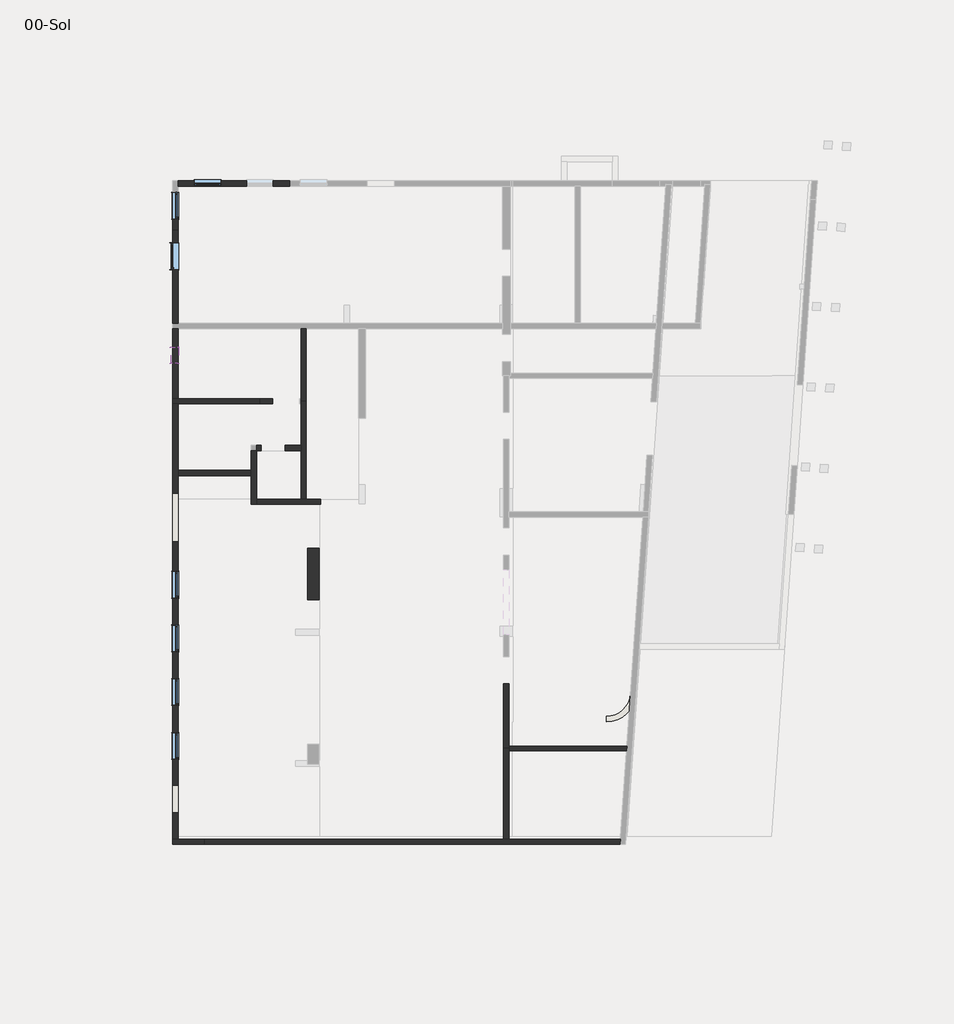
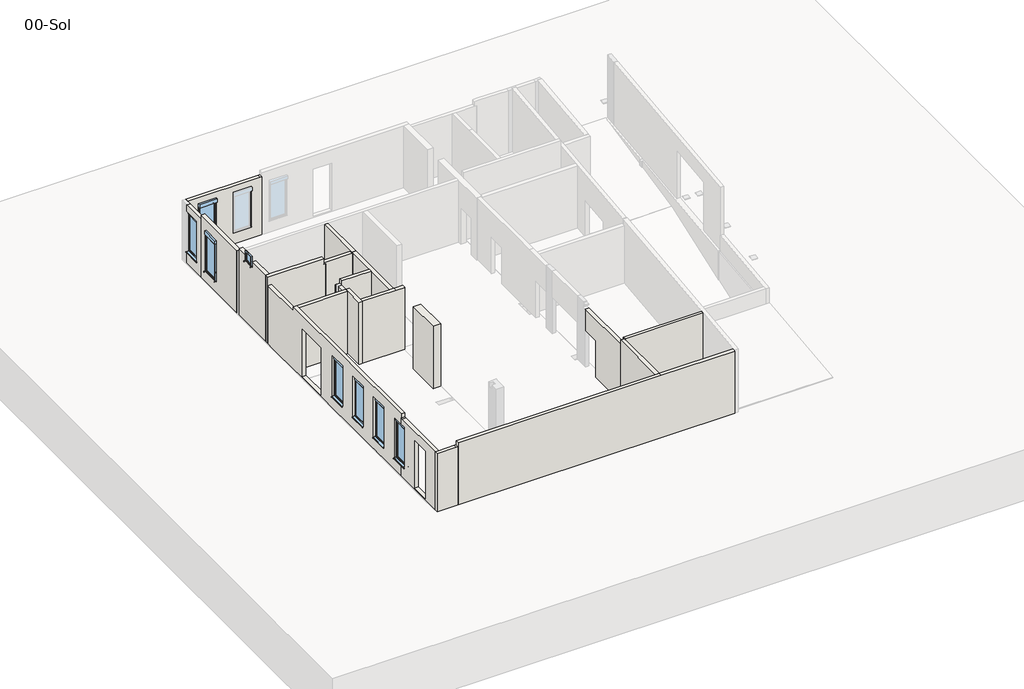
# One storey, part 1 of 4: 36 walls, 8 windows.
"""IFC4 building model written with IfcOpenShell, lengths in millimetres."""

from ifc_helpers import new_model, si_unit, frame, origin, place, context, project, spatial, polyline, circle_curve, outline, extrude, faceted_brep, transform, mapped, element, save
from ifc_brep_helpers import plane_surface, cylinder_surface, revolved_surface, advanced_brep
from components import window_220x100_2f9f3537, window_220x100_ace72829, window_220x100_16273c3d, tunnel_1v_voile_60x60_87597c4a

model = new_model("IFC4")

# Units and contexts
model_context = context("Model", 3, world=origin())
ifc_project = project(units=[si_unit("LENGTHUNIT", "METRE", prefix="MILLI")], contexts=[model_context])

# Site, building, storey
site = spatial("IfcSite", under=ifc_project)
building = spatial("IfcBuilding", under=site)
storey = spatial("IfcBuildingStorey", under=building, Name="00-Sol", Elevation=0.0)

# Walls
placement = place(None, origin())
element("IfcWall", 1, ObjectType="Voile Banché 20 cm", at=placement, inside=storey, context=model_context, shape_type="Brep", body=[
    faceted_brep([(-4937.0447796, -5540.1377724, 80.0), (-5907.0447796, -5540.1377724, 80.0), (-6107.0447796, -5540.1377724, 80.0), (-6107.0447796, -5540.1377724, 3510.0), (-5907.0447796, -5540.1377724, 3510.0), (-5037.0447796, -5540.1377724, 3510.0), (-4937.0447796, -5540.1377724, 3510.0), (-4937.0447796, -5740.1377724, 80.0), (-4937.0447796, -5740.1377724, 3510.0), (-5037.0447796, -5740.1377724, 3510.0), (-6107.0447796, -5740.1377724, 3510.0), (-6107.0447796, -5740.1377724, 80.0)], [[[0, 1, 2, 3, 4, 5, 6]], [[7, 8, 9, 10, 11]], [[2, 1, 0, 7, 11]], [[0, 6, 8, 7]], [[3, 2, 11, 10]], [[6, 5, 9, 8]], [[5, 4, 3, 10, 9]]]),
])
element("IfcWall", 2, ObjectType="Voile Banché 20 cm", at=placement, inside=storey, context=model_context, shape_type="SweptSolid", body=[
    extrude(outline(polyline([(18559.8622276, 80.0), (17149.8622276, 80.0), (17149.8622276, 3510.0), (18559.8622276, 3510.0), (18559.8622276, 3150.0), (17559.8622276, 3150.0), (17559.8622276, 750.0), (18559.8622276, 750.0), (18559.8622276, 80.0)])), frame((-6107.0447796, 0.0, 0.0), z_axis=(1.0, 0.0, 0.0), x_axis=(0.0, 1.0, 0.0)), (0.0, 0.0, 1.0), 200.0),
])
element("IfcWall", 3, ObjectType="Voile Banché 20 cm", at=placement, inside=storey, context=model_context, shape_type="Brep", body=[
    faceted_brep([(-6107.0447796, -2240.1377724, 3760.0), (-6107.0447796, 8209.8622276, 3760.0), (-6107.0447796, 8209.8622276, 3690.0), (-6107.0447796, 8209.8622276, 3510.0), (-6107.0447796, 10679.8622276, 3510.0), (-6107.0447796, 10679.8622276, 80.0), (-6107.0447796, 7339.8622276, 80.0), (-6107.0447796, 5539.8622276, 80.0), (-6107.0447796, -2240.1377724, 80.0), (-6107.0447796, -2240.1377724, 750.0), (-6107.0447796, -1571.2553382, 750.0), (-6107.0447796, -1571.2553382, 3150.0), (-6107.0447796, -2240.1377724, 3150.0), (-6107.0447796, -2240.1377724, 3510.0), (-6107.0447796, 5534.8622276, 2950.0), (-6107.0447796, 5534.8622276, 150.0), (-6107.0447796, 7339.8622276, 150.0), (-6107.0447796, 7339.8622276, 2950.0), (-6107.0447796, 3439.8622276, 3150.0), (-6107.0447796, 3439.8622276, 750.0), (-6107.0447796, 4439.8622276, 750.0), (-6107.0447796, 4439.8622276, 3150.0), (-6107.0447796, 1439.8622276, 3150.0), (-6107.0447796, 1439.8622276, 750.0), (-6107.0447796, 2439.8622276, 750.0), (-6107.0447796, 2439.8622276, 3150.0), (-6107.0447796, -560.1377724, 3150.0), (-6107.0447796, -560.1377724, 750.0), (-6107.0447796, 439.8622276, 750.0), (-6107.0447796, 439.8622276, 3150.0), (-5907.0447796, 8209.8622276, 3760.0), (-5907.0447796, 8009.8622276, 3760.0), (-5907.0447796, -2240.1377724, 3760.0), (-5907.0447796, -2240.1377724, 3510.0), (-5907.0447796, -2240.1377724, 3150.0), (-5907.0447796, -1571.2553382, 3150.0), (-5907.0447796, -1571.2553382, 750.0), (-5907.0447796, -2240.1377724, 750.0), (-5907.0447796, -2240.1377724, 80.0), (-5907.0447796, 5539.8622276, 80.0), (-5907.0447796, 7339.8622276, 80.0), (-5907.0447796, 8009.8622276, 80.0), (-5907.0447796, 8209.8622276, 80.0), (-5907.0447796, 10679.8622276, 80.0), (-5907.0447796, 10679.8622276, 3510.0), (-5907.0447796, 8209.8622276, 3510.0), (-5907.0447796, 8209.8622276, 3690.0), (-5907.0447796, 5534.8622276, 150.0), (-5907.0447796, 5534.8622276, 2950.0), (-5907.0447796, 7339.8622276, 2950.0), (-5907.0447796, 7339.8622276, 150.0), (-5907.0447796, 3439.8622276, 750.0), (-5907.0447796, 3439.8622276, 3150.0), (-5907.0447796, 4439.8622276, 3150.0), (-5907.0447796, 4439.8622276, 750.0), (-5907.0447796, 1439.8622276, 750.0), (-5907.0447796, 1439.8622276, 3150.0), (-5907.0447796, 2439.8622276, 3150.0), (-5907.0447796, 2439.8622276, 750.0), (-5907.0447796, -560.1377724, 750.0), (-5907.0447796, -560.1377724, 3150.0), (-5907.0447796, 439.8622276, 3150.0), (-5907.0447796, 439.8622276, 750.0)], [[[0, 1, 2, 3, 4, 5, 6, 7, 8, 9, 10, 11, 12, 13], [14, 15, 16, 17], [18, 19, 20, 21], [22, 23, 24, 25], [26, 27, 28, 29]], [[30, 31, 32, 33, 34, 35, 36, 37, 38, 39, 40, 41, 42, 43, 44, 45, 46], [47, 48, 49, 50], [51, 52, 53, 54], [55, 56, 57, 58], [59, 60, 61, 62]], [[1, 0, 32, 31, 30]], [[4, 3, 45, 44]], [[5, 4, 44, 43]], [[0, 13, 12, 34, 33, 32]], [[9, 8, 38, 37]], [[6, 5, 43, 42, 41, 40]], [[7, 6, 40, 39]], [[8, 7, 39, 38]], [[47, 15, 14, 48]], [[48, 14, 17, 49]], [[49, 17, 16, 50]], [[15, 47, 50, 16]], [[11, 35, 34, 12]], [[35, 11, 10, 36]], [[36, 10, 9, 37]], [[51, 19, 18, 52]], [[52, 18, 21, 53]], [[53, 21, 20, 54]], [[19, 51, 54, 20]], [[55, 23, 22, 56]], [[56, 22, 25, 57]], [[57, 25, 24, 58]], [[23, 55, 58, 24]], [[59, 27, 26, 60]], [[60, 26, 29, 61]], [[61, 29, 28, 62]], [[27, 59, 62, 28]], [[30, 46, 45, 3, 2, 1]]]),
])
element("IfcWall", 4, ObjectType="Voile Banché 43 cm", at=placement, inside=storey, context=model_context, shape_type="Brep", body=[
    faceted_brep([(-1072.0447796, 5305.2622276, 80.0), (-1072.0447796, 3375.2622276, 80.0), (-1072.0447796, 3375.2622276, 3060.0), (-1072.0447796, 3375.2622276, 3760.0), (-1072.0447796, 5305.2622276, 3760.0), (-1072.0447796, 5305.2622276, 3360.0), (-642.0447796, 5305.2622276, 80.0), (-642.0447796, 5305.2622276, 3360.0), (-642.0447796, 5305.2622276, 3760.0), (-642.0447796, 3375.2622276, 3760.0), (-642.0447796, 3375.2622276, 3060.0), (-642.0447796, 3375.2622276, 80.0)], [[[0, 1, 2, 3, 4, 5]], [[6, 7, 8, 9, 10, 11]], [[1, 0, 6, 11]], [[3, 2, 1, 11, 10, 9]], [[0, 5, 4, 8, 7, 6]], [[4, 3, 9, 8]]]),
])
element("IfcWall", 5, ObjectType="Voile Banché 20 cm", at=placement, inside=storey, context=model_context, shape_type="Brep", body=[
    faceted_brep([(10580.423686, -5540.1377724, 80.0), (6432.9552204, -5540.1377724, 80.0), (6232.9552204, -5540.1377724, 80.0), (-4937.0447796, -5540.1377724, 80.0), (-4937.0447796, -5540.1377724, 3510.0), (-4937.0447796, -5540.1377724, 3760.0), (-4837.0447796, -5540.1377724, 3760.0), (6232.9552204, -5540.1377724, 3760.0), (6432.9552204, -5540.1377724, 3760.0), (10580.423686, -5540.1377724, 3760.0), (10580.423686, -5540.1377724, 280.0), (10566.4383237, -5740.1377724, 80.0), (10566.4383237, -5740.1377724, 3760.0), (6432.9552204, -5740.1377724, 3760.0), (-4937.0447796, -5740.1377724, 3760.0), (-4937.0447796, -5740.1377724, 3510.0), (-4937.0447796, -5740.1377724, 80.0)], [[[0, 1, 2, 3, 4, 5, 6, 7, 8, 9, 10]], [[11, 12, 13, 14, 15, 16]], [[3, 2, 1, 0, 11, 16]], [[5, 4, 3, 16, 15, 14]], [[9, 8, 13, 12]], [[8, 7, 6, 5, 14, 13]], [[0, 10, 9, 12, 11]]]),
])
element("IfcWall", 6, ObjectType="Voile Banché 20 cm", at=placement, inside=storey, context=model_context, shape_type="Brep", body=[
    faceted_brep([(-1377.0447796, 10679.8622276, 3760.0), (-2777.0447796, 10679.8622276, 3760.0), (-2977.0447796, 10679.8622276, 3760.0), (-2977.0447796, 10679.8622276, 3690.0), (-2877.0447796, 10679.8622276, 3690.0), (-2877.0447796, 10679.8622276, 80.0), (-2377.0447796, 10679.8622276, 80.0), (-2377.0447796, 10679.8622276, 2250.0), (-1377.0447796, 10679.8622276, 2250.0), (-2977.0447796, 10879.8622276, 3760.0), (-1377.0447796, 10879.8622276, 3760.0), (-1377.0447796, 10879.8622276, 2250.0), (-2377.0447796, 10879.8622276, 2250.0), (-2377.0447796, 10879.8622276, 80.0), (-2877.0447796, 10879.8622276, 80.0), (-2877.0447796, 10879.8622276, 3690.0), (-2977.0447796, 10879.8622276, 3690.0)], [[[0, 1, 2, 3, 4, 5, 6, 7, 8]], [[9, 10, 11, 12, 13, 14, 15, 16]], [[5, 14, 13, 6]], [[10, 0, 8, 11]], [[7, 12, 11, 8]], [[12, 7, 6, 13]], [[5, 4, 15, 14]], [[3, 16, 15, 4]], [[3, 2, 9, 16]], [[2, 1, 0, 10, 9]]]),
])
element("IfcWall", 7, ObjectType="Voile Banché 20 cm", at=placement, inside=storey, context=model_context, shape_type="Brep", body=[
    faceted_brep([(-3177.0447796, 8929.8622276, 80.0), (-3177.0447796, 8209.8622276, 80.0), (-3177.0447796, 8009.8622276, 80.0), (-3177.0447796, 6929.8622276, 80.0), (-3177.0447796, 6929.8622276, 3760.0), (-3177.0447796, 8009.8622276, 3760.0), (-3177.0447796, 8209.8622276, 3760.0), (-3177.0447796, 8209.8622276, 3510.0), (-3177.0447796, 8929.8622276, 3510.0), (-2977.0447796, 8929.8622276, 80.0), (-2977.0447796, 8929.8622276, 3510.0), (-2977.0447796, 8209.8622276, 3510.0), (-2977.0447796, 8209.8622276, 3760.0), (-2977.0447796, 7129.8622276, 3760.0), (-2977.0447796, 6929.8622276, 3760.0), (-2977.0447796, 6929.8622276, 80.0), (-2977.0447796, 7129.8622276, 80.0)], [[[0, 1, 2, 3, 4, 5, 6, 7, 8]], [[9, 10, 11, 12, 13, 14, 15, 16]], [[3, 2, 1, 0, 9, 16, 15]], [[0, 8, 10, 9]], [[4, 3, 15, 14]], [[6, 5, 4, 14, 13, 12]], [[8, 7, 11, 10]], [[6, 12, 11, 7]]]),
])
element("IfcWall", 8, ObjectType="Voile Banché 20 cm", at=placement, inside=storey, context=model_context, shape_type="Brep", body=[
    faceted_brep([(-1327.0447796, 8929.8622276, 80.0), (-1327.0447796, 8929.8622276, 3760.0), (-2977.0447796, 8929.8622276, 3760.0), (-2977.0447796, 8929.8622276, 3510.0), (-2977.0447796, 8929.8622276, 80.0), (-2817.0447796, 8929.8622276, 80.0), (-2817.0447796, 8929.8622276, 2250.0), (-1917.0447796, 8929.8622276, 2250.0), (-1917.0447796, 8929.8622276, 80.0), (-1327.0447796, 9129.8622276, 3760.0), (-1327.0447796, 9129.8622276, 80.0), (-1917.0447796, 9129.8622276, 80.0), (-1917.0447796, 9129.8622276, 2250.0), (-2817.0447796, 9129.8622276, 2250.0), (-2817.0447796, 9129.8622276, 80.0), (-2977.0447796, 9129.8622276, 80.0), (-2977.0447796, 9129.8622276, 3510.0), (-2977.0447796, 9129.8622276, 3690.0), (-2977.0447796, 9129.8622276, 3760.0), (-2777.0447796, 9129.8622276, 3760.0)], [[[0, 1, 2, 3, 4, 5, 6, 7, 8]], [[9, 10, 11, 12, 13, 14, 15, 16, 17, 18, 19]], [[10, 0, 8, 11]], [[4, 15, 14, 5]], [[1, 0, 10, 9]], [[6, 13, 12, 7]], [[13, 6, 5, 14]], [[7, 12, 11, 8]], [[4, 3, 2, 18, 17, 16, 15]], [[2, 1, 9, 19, 18]]]),
])
element("IfcWall", 9, ObjectType="Voile Banché 20 cm", at=placement, inside=storey, context=model_context, shape_type="Brep", body=[
    faceted_brep([(-2977.0447796, 6929.8622276, 80.0), (-597.0447796, 6929.8622276, 80.0), (-597.0447796, 6929.8622276, 3260.0), (-597.0447796, 6929.8622276, 3760.0), (-642.0447796, 6929.8622276, 3760.0), (-1072.0447796, 6929.8622276, 3760.0), (-2977.0447796, 6929.8622276, 3760.0), (-2977.0447796, 7129.8622276, 80.0), (-2977.0447796, 7129.8622276, 3760.0), (-1327.0447796, 7129.8622276, 3760.0), (-1127.0447796, 7129.8622276, 3760.0), (-1072.0447796, 7129.8622276, 3760.0), (-597.0447796, 7129.8622276, 3760.0), (-597.0447796, 7129.8622276, 3260.0), (-597.0447796, 7129.8622276, 80.0)], [[[0, 1, 2, 3, 4, 5, 6]], [[7, 8, 9, 10, 11, 12, 13, 14]], [[1, 0, 7, 14]], [[3, 2, 1, 14, 13, 12]], [[0, 6, 8, 7]], [[5, 4, 3, 12, 11]], [[6, 5, 11, 10, 9, 8]]]),
])
element("IfcWall", 10, ObjectType="Voile Banché 20 cm", at=placement, inside=storey, context=model_context, shape_type="SweptSolid", body=[
    extrude(outline(polyline([(-2240.1377724, 80.0), (-5540.1377724, 80.0), (-5540.1377724, 3510.0), (-2340.1377724, 3510.0), (-2240.1377724, 3510.0), (-2240.1377724, 3150.0), (-2571.2553382, 3150.0), (-2571.2553382, 750.0), (-2240.1377724, 750.0), (-2240.1377724, 80.0)]), holes=[polyline([(-4566.2553382, 2950.0), (-4566.2553382, 150.0), (-3541.2553382, 150.0), (-3541.2553382, 2950.0), (-4566.2553382, 2950.0)])]), frame((-6107.0447796, 0.0, 0.0), z_axis=(1.0, 0.0, 0.0), x_axis=(0.0, 1.0, 0.0)), (0.0, 0.0, 1.0), 200.0),
])
element("IfcWall", 11, ObjectType="Voile Banché 20 cm", at=placement, inside=storey, context=model_context, shape_type="Brep", body=[
    faceted_brep([(-6107.0447796, 10679.8622276, 4010.0), (-6107.0447796, 10679.8622276, 3510.0), (-6107.0447796, 10679.8622276, 80.0), (-5907.0447796, 10679.8622276, 80.0), (-2877.0447796, 10679.8622276, 80.0), (-2877.0447796, 10679.8622276, 3690.0), (-2977.0447796, 10679.8622276, 3690.0), (-2977.0447796, 10679.8622276, 3760.0), (-2977.0447796, 10679.8622276, 4010.0), (-6107.0447796, 10879.8622276, 80.0), (-6107.0447796, 10879.8622276, 4010.0), (-5907.0447796, 10879.8622276, 4010.0), (-2977.0447796, 10879.8622276, 4010.0), (-2977.0447796, 10879.8622276, 3760.0), (-2977.0447796, 10879.8622276, 3690.0), (-2877.0447796, 10879.8622276, 3690.0), (-2877.0447796, 10879.8622276, 80.0), (-5907.0447796, 10879.8622276, 80.0)], [[[0, 1, 2, 3, 4, 5, 6, 7, 8]], [[9, 10, 11, 12, 13, 14, 15, 16, 17]], [[4, 3, 2, 9, 17, 16]], [[0, 8, 12, 11, 10]], [[5, 4, 16, 15]], [[14, 6, 5, 15]], [[8, 7, 6, 14, 13, 12]], [[0, 10, 9, 2, 1]]]),
])
element("IfcWall", 12, ObjectType="Voile Banché 20 cm", at=placement, inside=storey, context=model_context, shape_type="Brep", body=[
    faceted_brep([(-6107.0447796, 13479.8622276, 80.0), (-6107.0447796, 10879.8622276, 80.0), (-6107.0447796, 10879.8622276, 4010.0), (-6107.0447796, 12194.4911239, 4010.0), (-6107.0447796, 12194.4911239, 3735.0), (-6107.0447796, 12794.4911239, 3735.0), (-6107.0447796, 12794.4911239, 4010.0), (-6107.0447796, 13479.8622276, 4010.0), (-6107.0447796, 13479.8622276, 3760.0), (-5907.0447796, 10879.8622276, 80.0), (-5907.0447796, 13479.8622276, 80.0), (-5907.0447796, 13479.8622276, 4010.0), (-5907.0447796, 12794.4911239, 4010.0), (-5907.0447796, 12794.4911239, 3735.0), (-5907.0447796, 12194.4911239, 3735.0), (-5907.0447796, 12194.4911239, 4010.0), (-5907.0447796, 10879.8622276, 4010.0)], [[[0, 1, 2, 3, 4, 5, 6, 7, 8]], [[9, 10, 11, 12, 13, 14, 15, 16]], [[1, 0, 10, 9]], [[11, 7, 6, 12]], [[2, 16, 15, 3]], [[0, 8, 7, 11, 10]], [[5, 13, 12, 6]], [[14, 4, 3, 15]], [[13, 5, 4, 14]], [[1, 9, 16, 2]]]),
])
element("IfcWall", 13, ObjectType="Voile Banché 28", at=placement, inside=storey, context=model_context, shape_type="Brep", body=[
    faceted_brep([(-6107.0447796, 18999.8622276, -3690.0), (-6107.0447796, -5440.1377724, -3690.0), (-6107.0447796, -5440.1377724, -150.0), (-6107.0447796, -2240.1377724, -150.0), (-6107.0447796, 7129.8622276, -150.0), (-6107.0447796, 13479.8622276, -150.0), (-6107.0447796, 13479.8622276, -190.0), (-6107.0447796, 18999.8622276, -190.0), (-5827.0447796, 18999.8622276, -3690.0), (-5827.0447796, 18999.8622276, -190.0), (-5827.0447796, 13679.8622276, -190.0), (-5827.0447796, 13479.8622276, -190.0), (-5827.0447796, 13479.8622276, -150.0), (-5827.0447796, 10879.8622276, -150.0), (-5827.0447796, 10679.8622276, -150.0), (-5827.0447796, 7129.8622276, -150.0), (-5827.0447796, 6929.8622276, -150.0), (-5827.0447796, -5160.1377724, -150.0), (-5827.0447796, -5440.1377724, -150.0), (-5827.0447796, -5440.1377724, -3690.0), (-5827.0447796, -5160.1377724, -3690.0), (-5827.0447796, 6929.8622276, -3690.0), (-5827.0447796, 7129.8622276, -3690.0), (-5827.0447796, 10679.8622276, -3690.0), (-5827.0447796, 10879.8622276, -3690.0), (-5827.0447796, 13479.8622276, -3690.0), (-5827.0447796, 13679.8622276, -3690.0), (-5827.0447796, 18719.8622276, -3690.0)], [[[0, 1, 2, 3, 4, 5, 6, 7]], [[8, 9, 10, 11, 12, 13, 14, 15, 16, 17, 18, 19, 20, 21, 22, 23, 24, 25, 26, 27]], [[1, 0, 8, 27, 26, 25, 24, 23, 22, 21, 20, 19]], [[2, 1, 19, 18]], [[0, 7, 9, 8]], [[4, 3, 2, 18, 17, 16, 15]], [[7, 6, 11, 10, 9]], [[5, 4, 15, 14, 13, 12]], [[5, 12, 11, 6]]]),
])
element("IfcWall", 14, ObjectType="Voile Banché 28", at=placement, inside=storey, context=model_context, shape_type="Brep", body=[
    faceted_brep([(-5827.0447796, -5440.1377724, -3690.0), (16210.7902416, -5440.1377724, -3690.0), (16210.7902416, -5440.1377724, -220.0), (10787.9047469, -5440.1377724, -220.0), (10787.9047469, -5440.1377724, -150.0), (6533.9216137, -5440.1377724, -150.0), (6532.9552204, -5440.1377724, -150.0), (6532.9552204, -5440.1377724, -190.0), (-637.0447796, -5440.1377724, -190.0), (-637.0447796, -5440.1377724, -150.0), (-5827.0447796, -5440.1377724, -150.0), (-5827.0447796, -5160.1377724, -3690.0), (-5827.0447796, -5160.1377724, -3520.0), (-5827.0447796, -5160.1377724, -3390.0), (-5827.0447796, -5160.1377724, -150.0), (-1537.0447796, -5160.1377724, -150.0), (-637.0447796, -5160.1377724, -150.0), (-637.0447796, -5160.1377724, -190.0), (6532.9552204, -5160.1377724, -190.0), (6532.9552204, -5160.1377724, -150.0), (6533.9216137, -5160.1377724, -150.0), (10807.4842542, -5160.1377724, -150.0), (10807.4842542, -5160.1377724, -220.0), (15979.7592744, -5160.1377724, -220.0), (16230.369749, -5160.1377724, -220.0), (16230.369749, -5160.1377724, -3690.0), (15979.7592744, -5160.1377724, -3690.0)], [[[0, 1, 2, 3, 4, 5, 6, 7, 8, 9, 10]], [[11, 12, 13, 14, 15, 16, 17, 18, 19, 20, 21, 22, 23, 24, 25, 26]], [[1, 0, 11, 26, 25]], [[2, 1, 25, 24]], [[0, 10, 14, 13, 12, 11]], [[10, 9, 16, 15, 14]], [[8, 7, 18, 17]], [[3, 2, 24, 23, 22]], [[6, 5, 20, 19]], [[5, 4, 21, 20]], [[16, 9, 8, 17]], [[6, 19, 18, 7]], [[21, 4, 3, 22]]]),
])
element("IfcWall", 15, ObjectType="Voile Banché 25", at=placement, inside=storey, context=model_context, shape_type="Brep", body=[
    faceted_brep([(16453.2940501, 1611.7250146, -3690.0), (15979.7592744, -5160.1377724, -3690.0), (15979.7592744, -5160.1377724, -220.0), (16446.8703782, 1519.8622276, -220.0), (16453.2940501, 1611.7250146, -220.0), (16453.2940501, 1611.7250146, -500.0), (16702.6850626, 1594.2858962, -3690.0), (16702.6850626, 1594.2858962, -220.0), (16230.369749, -5160.1377724, -220.0), (16230.369749, -5160.1377724, -3690.0), (16503.1722526, 1608.237191, -3690.0), (16503.1722526, 1608.237191, -220.0)], [[[0, 1, 2, 3, 4, 5]], [[6, 7, 8, 9]], [[1, 0, 10, 6, 9]], [[0, 5, 4, 11, 7, 6, 10]], [[2, 1, 9, 8]], [[4, 3, 2, 8, 7, 11]]]),
])
element("IfcWall", 16, ObjectType="Voile Banché 20 cm", at=placement, inside=storey, context=model_context, shape_type="Brep", body=[
    faceted_brep([(-5827.0447796, 13479.8622276, -3690.0), (-1127.0447796, 13479.8622276, -3690.0), (-1127.0447796, 13479.8622276, -190.0), (-5827.0447796, 13479.8622276, -190.0), (-5827.0447796, 13679.8622276, -3690.0), (-5827.0447796, 13679.8622276, -190.0), (-1327.0447796, 13679.8622276, -190.0), (-1127.0447796, 13679.8622276, -190.0), (-1127.0447796, 13679.8622276, -370.0), (-1127.0447796, 13679.8622276, -3690.0), (-1127.0447796, 13529.8622276, -190.0)], [[[0, 1, 2, 3]], [[4, 5, 6, 7, 8, 9]], [[1, 0, 4, 9]], [[2, 1, 9, 8, 7, 10]], [[0, 3, 5, 4]], [[3, 2, 10, 7, 6, 5]]]),
])
element("IfcWall", 17, ObjectType="Voile Banché 20 cm", at=placement, inside=storey, context=model_context, shape_type="Brep", body=[
    faceted_brep([(-5827.0447796, 10679.8622276, -3690.0), (812.9552204, 10679.8622276, -3690.0), (1082.9552204, 10679.8622276, -3690.0), (1082.9552204, 10679.8622276, -190.0), (812.9552204, 10679.8622276, -190.0), (812.9552204, 10679.8622276, -150.0), (-5827.0447796, 10679.8622276, -150.0), (-5827.0447796, 10879.8622276, -3690.0), (-5827.0447796, 10879.8622276, -150.0), (812.9552204, 10879.8622276, -150.0), (812.9552204, 10879.8622276, -190.0), (1082.9552204, 10879.8622276, -190.0), (1082.9552204, 10879.8622276, -3690.0)], [[[0, 1, 2, 3, 4, 5, 6]], [[7, 8, 9, 10, 11, 12]], [[2, 1, 0, 7, 12]], [[0, 6, 8, 7]], [[3, 2, 12, 11]], [[4, 3, 11, 10]], [[6, 5, 9, 8]], [[9, 5, 4, 10]]]),
])
element("IfcWall", 18, ObjectType="Voile Banché 20 cm", at=placement, inside=storey, context=model_context, shape_type="Brep", body=[
    faceted_brep([(-1227.0447796, 6929.8622276, -3690.0), (-1127.0447796, 6929.8622276, -3690.0), (812.9552204, 6929.8622276, -3690.0), (812.9552204, 6929.8622276, -3520.0), (812.9552204, 6929.8622276, -3390.0), (812.9552204, 6929.8622276, -190.0), (-637.0447796, 6929.8622276, -190.0), (-637.0447796, 6929.8622276, -150.0), (-1227.0447796, 6929.8622276, -150.0), (-1227.0447796, 6929.8622276, -3520.0), (-1227.0447796, 7129.8622276, -3690.0), (-1227.0447796, 7129.8622276, -3520.0), (-1227.0447796, 7129.8622276, -150.0), (-637.0447796, 7129.8622276, -150.0), (-637.0447796, 7129.8622276, -190.0), (812.9552204, 7129.8622276, -190.0), (812.9552204, 7129.8622276, -3690.0)], [[[0, 1, 2, 3, 4, 5, 6, 7, 8, 9]], [[10, 11, 12, 13, 14, 15, 16]], [[2, 1, 0, 10, 16]], [[5, 4, 3, 2, 16, 15]], [[0, 9, 8, 12, 11, 10]], [[8, 7, 13, 12]], [[6, 5, 15, 14]], [[13, 7, 6, 14]]]),
])
element("IfcWall", 19, ObjectType="Voile Banché 20 cm", at=placement, inside=storey, context=model_context, shape_type="Brep", body=[
    faceted_brep([(-2977.0447796, 6929.8622276, -4890.0), (-2977.0447796, 7129.8622276, -4890.0), (-2977.0447796, 8929.8622276, -4890.0), (-2977.0447796, 9129.8622276, -4890.0), (-2977.0447796, 9129.8622276, -3990.0), (-2977.0447796, 8929.8622276, -3990.0), (-2977.0447796, 8929.8622276, -150.0), (-2977.0447796, 7129.8622276, -150.0), (-2977.0447796, 6929.8622276, -150.0), (-2977.0447796, 6929.8622276, -3520.0), (-3177.0447796, 6929.8622276, -4890.0), (-3177.0447796, 6929.8622276, -3690.0), (-3177.0447796, 6929.8622276, -150.0), (-3177.0447796, 7129.8622276, -150.0), (-3177.0447796, 8929.8622276, -150.0), (-3177.0447796, 8929.8622276, -3990.0), (-3177.0447796, 9129.8622276, -3990.0), (-3177.0447796, 9129.8622276, -4890.0)], [[[0, 1, 2, 3, 4, 5, 6, 7, 8, 9]], [[10, 11, 12, 13, 14, 15, 16, 17]], [[3, 2, 1, 0, 10, 17]], [[15, 5, 4, 16]], [[4, 3, 17, 16]], [[6, 5, 15, 14]], [[8, 7, 13, 12]], [[7, 6, 14, 13]], [[0, 9, 8, 12, 11, 10]]]),
])
element("IfcWall", 20, ObjectType="Voile Banché 20 cm", at=placement, inside=storey, context=model_context, shape_type="Brep", body=[
    faceted_brep([(-3907.0447796, 8929.8622276, -3990.0), (-3177.0447796, 8929.8622276, -3990.0), (-2977.0447796, 8929.8622276, -3990.0), (-1327.0447796, 8929.8622276, -3990.0), (-1127.0447796, 8929.8622276, -3990.0), (-1127.0447796, 8929.8622276, -3690.0), (-1327.0447796, 8929.8622276, -3690.0), (-3907.0447796, 8929.8622276, -3690.0), (-3907.0447796, 9129.8622276, -3990.0), (-3907.0447796, 9129.8622276, -3690.0), (-1697.0447796, 9129.8622276, -3690.0), (-1497.0447796, 9129.8622276, -3690.0), (-1127.0447796, 9129.8622276, -3690.0), (-1127.0447796, 9129.8622276, -3990.0), (-1327.0447796, 9129.8622276, -3990.0), (-1497.0447796, 9129.8622276, -3990.0), (-1697.0447796, 9129.8622276, -3990.0), (-2977.0447796, 9129.8622276, -3990.0)], [[[0, 1, 2, 3, 4, 5, 6, 7]], [[8, 9, 10, 11, 12, 13, 14, 15, 16, 17]], [[4, 3, 2, 1, 0, 8, 17, 16, 15, 14, 13]], [[7, 6, 5, 12, 11, 10, 9]], [[5, 4, 13, 12]], [[0, 7, 9, 8]]]),
])
element("IfcWall", 21, ObjectType="Voile Banché 20 cm", at=placement, inside=storey, context=model_context, shape_type="Brep", body=[
    faceted_brep([(-1327.0447796, 9129.8622276, -4890.0), (-1327.0447796, 8929.8622276, -4890.0), (-1327.0447796, 7129.8622276, -4890.0), (-1327.0447796, 6929.8622276, -4890.0), (-1327.0447796, 6929.8622276, -3690.0), (-1327.0447796, 7129.8622276, -3690.0), (-1327.0447796, 8929.8622276, -3690.0), (-1327.0447796, 8929.8622276, -3990.0), (-1327.0447796, 9129.8622276, -3990.0), (-1127.0447796, 9129.8622276, -4890.0), (-1127.0447796, 9129.8622276, -3990.0), (-1127.0447796, 8929.8622276, -3990.0), (-1127.0447796, 8929.8622276, -3690.0), (-1127.0447796, 6929.8622276, -3690.0), (-1127.0447796, 6929.8622276, -4890.0), (-1227.0447796, 6929.8622276, -3690.0)], [[[0, 1, 2, 3, 4, 5, 6, 7, 8]], [[9, 10, 11, 12, 13, 14]], [[3, 2, 1, 0, 9, 14]], [[6, 5, 4, 15, 13, 12]], [[7, 11, 10, 8]], [[0, 8, 10, 9]], [[7, 6, 12, 11]], [[4, 3, 14, 13, 15]]]),
])
element("IfcWall", 22, ObjectType="Voile Banché 20 cm", at=placement, inside=storey, context=model_context, shape_type="Brep", body=[
    faceted_brep([(-4107.0447796, 10779.8622276, -3990.0), (-4107.0447796, 8929.8622276, -3990.0), (-4107.0447796, 8929.8622276, -3690.0), (-4107.0447796, 10779.8622276, -3690.0), (-3907.0447796, 10779.8622276, -3990.0), (-3907.0447796, 10779.8622276, -3690.0), (-3907.0447796, 9129.8622276, -3690.0), (-3907.0447796, 8929.8622276, -3690.0), (-3907.0447796, 8929.8622276, -3990.0), (-3907.0447796, 9129.8622276, -3990.0)], [[[0, 1, 2, 3]], [[4, 5, 6, 7, 8, 9]], [[1, 0, 4, 9, 8]], [[3, 2, 7, 6, 5]], [[0, 3, 5, 4]], [[2, 1, 8, 7]]]),
])
element("IfcWall", 23, ObjectType="Voile Banché 20 cm", at=placement, inside=storey, context=model_context, shape_type="SweptSolid", body=[
    extrude(outline(polyline([(-1697.0447796, 9129.8622276), (-1697.0447796, 10779.8622276), (-1497.0447796, 10779.8622276), (-1497.0447796, 9129.8622276), (-1697.0447796, 9129.8622276)])), frame((0.0, 0.0, -3990.0), z_axis=(0.0, 0.0, 1.0), x_axis=(1.0, 0.0, 0.0)), (0.0, 0.0, 1.0), 300.0),
])
element("IfcWall", 24, ObjectType="Voile Banché 20 cm", at=placement, inside=storey, context=model_context, shape_type="Brep", body=[
    faceted_brep([(5232.9552204, -1160.1377724, -3690.0), (10072.9552204, -1160.1377724, -3690.0), (10072.9552204, -1160.1377724, -3540.0), (10072.9552204, -1160.1377724, -3390.0), (10072.9552204, -1160.1377724, -190.0), (6582.9552204, -1160.1377724, -190.0), (6532.9552204, -1160.1377724, -190.0), (5232.9552204, -1160.1377724, -190.0), (5232.9552204, -1160.1377724, -3390.0), (5232.9552204, -1160.1377724, -3540.0), (10072.9552204, -960.1377724, -3690.0), (5232.9552204, -960.1377724, -3690.0), (5232.9552204, -960.1377724, -190.0), (6082.9552204, -960.1377724, -190.0), (6582.9552204, -960.1377724, -190.0), (10072.9552204, -960.1377724, -190.0)], [[[0, 1, 2, 3, 4, 5, 6, 7, 8, 9]], [[10, 11, 12, 13, 14, 15]], [[1, 0, 11, 10]], [[10, 15, 4, 3, 2, 1]], [[12, 11, 0, 9, 8, 7]], [[4, 15, 14, 5]], [[12, 7, 6, 5, 14, 13]]]),
])
element("IfcWall", 25, ObjectType="Voile Banché 20 cm", at=placement, inside=storey, context=model_context, shape_type="AdvancedBrep", body=[
    advanced_brep(
    [(10961.0375218, -131.6850201, 150.0), (10072.9552204, -960.1377724, 150.0), (10072.9552204, -1160.1377724, 150.0), (11160.5554032, -145.5636013, 150.0), (10961.0375218, -131.6850201, -3690.0), (11160.5554032, -145.5636013, -3690.0), (10072.9552204, -1160.1377724, -3690.0), (10072.9552204, -960.1377724, -3690.0), (10961.0375218, -131.6850201, -150.0), (10072.9552204, -960.1377724, -190.0), (10072.9552204, -1160.1377724, -190.0), (11160.5554032, -145.5636013, -150.0)],
    [
        (0, 1, circle_curve(frame((10072.9552204, -69.9094928, 150.0), z_axis=(0.0, 0.0, -1.0), x_axis=(1.0, 0.0, 0.0)), 890.2282796)),
        (1, 2),
        (2, 3, circle_curve(frame((10072.9552204, -69.9094928, 150.0), z_axis=(0.0, 0.0, 1.0), x_axis=(1.0, 0.0, 0.0)), 1090.2282796)),
        (3, 0),
        (4, 5),
        (5, 6, circle_curve(frame((10072.9552204, -69.9094928, -3690.0), z_axis=(0.0, 0.0, -1.0), x_axis=(1.0, 0.0, 0.0)), 1090.2282796)),
        (6, 7),
        (7, 4, circle_curve(frame((10072.9552204, -69.9094928, -3690.0), z_axis=(0.0, 0.0, 1.0), x_axis=(1.0, 0.0, 0.0)), 890.2282796)),
        (0, 8),
        (8, 4),
        (7, 9),
        (9, 1),
        (6, 10),
        (10, 2),
        (5, 11),
        (11, 3),
    ],
    [
        plane_surface(frame((10963.1835, -69.9094928, 150.0), z_axis=(0.0, 0.0, 1.0), x_axis=(0.0, -1.0, 0.0))),
        plane_surface(frame((10963.1835, -69.9094928, -3690.0), z_axis=(0.0, 0.0, -1.0), x_axis=(0.0, 1.0, 0.0))),
        revolved_surface(polyline([(10963.1835, -69.9094928, -3690.0), (10963.1835, -69.9094928, 150.0)]), (10072.9552204, -69.9094928, -3690.0), (0.0, 0.0, -1.0)),
        plane_surface(frame((10072.9552204, -960.1377724, 150.0), z_axis=(-1.0, 0.0, 0.0), x_axis=(0.0, 0.0, -1.0))),
        cylinder_surface(frame((10072.9552204, -69.9094928, -3690.0), z_axis=(0.0, 0.0, 1.0), x_axis=(1.0, 0.0, 0.0)), 1090.2282796),
        plane_surface(frame((11160.5554032, -145.5636013, 150.0), z_axis=(0.06939290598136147, 0.9975894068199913, 0.0), x_axis=(0.0, 0.0, -1.0))),
    ],
    [
        (0, [[1, 2, 3, 4]]),
        (1, [[5, 6, 7, 8]]),
        (2, [[-1, 9, 10, -8, 11, 12]]),
        (3, [[-2, -12, -11, -7, 13, 14]]),
        (4, [[-3, -14, -13, -6, 15, 16]]),
        (5, [[-4, -16, -15, -5, -10, -9]]),
    ],
),
])
element("IfcWall", 26, ObjectType="Voile Banché 20 cm", at=placement, inside=storey, context=model_context, shape_type="SweptSolid", body=[
    extrude(outline(polyline([(-1327.0447796, 8929.8622276), (-2977.0447796, 8929.8622276), (-2977.0447796, 9129.8622276), (-1327.0447796, 9129.8622276), (-1327.0447796, 8929.8622276)])), frame((0.0, 0.0, -4890.0), z_axis=(0.0, 0.0, 1.0), x_axis=(1.0, 0.0, 0.0)), (0.0, 0.0, 1.0), 900.0),
])
element("IfcWall", 27, ObjectType="Voile Banché 20 cm", at=placement, inside=storey, context=model_context, shape_type="SweptSolid", body=[
    extrude(outline(polyline([(-4890.0, -1327.0447796), (-3690.0, -1327.0447796), (-3690.0, -1227.0447796), (-3520.0, -1227.0447796), (-3520.0, -2977.0447796), (-4890.0, -2977.0447796), (-4890.0, -1327.0447796)])), frame((0.0, 6929.8622276, 0.0), z_axis=(0.0, 1.0, 0.0), x_axis=(0.0, 0.0, 1.0)), (0.0, 0.0, 1.0), 200.0),
])
element("IfcWall", 28, ObjectType="Voile Banché 20 cm", at=placement, inside=storey, context=model_context, shape_type="SweptSolid", body=[
    extrude(outline(polyline([(-3177.0447796, 6929.8622276), (-5827.0447796, 6929.8622276), (-5827.0447796, 7129.8622276), (-3177.0447796, 7129.8622276), (-3177.0447796, 6929.8622276)])), frame((0.0, 0.0, -3690.0), z_axis=(0.0, 0.0, 1.0), x_axis=(1.0, 0.0, 0.0)), (0.0, 0.0, 1.0), 3540.0),
])
element("IfcWall", 29, ObjectType="Poutre voile 16 cm", at=placement, inside=storey, context=model_context, shape_type="Brep", body=[
    faceted_brep([(6432.9552204, -2240.1377724, 80.0), (10811.1821655, -2240.1377724, 80.0), (10811.1821655, -2240.1377724, 3810.0), (6432.9552204, -2240.1377724, 3810.0), (6432.9552204, -2080.1377724, 80.0), (6432.9552204, -2080.1377724, 3810.0), (10822.3704554, -2080.1377724, 3810.0), (10822.3704554, -2080.1377724, 80.0), (6432.9552204, -2160.1377724, 80.0)], [[[0, 1, 2, 3]], [[4, 5, 6, 7]], [[1, 0, 8, 4, 7]], [[3, 2, 6, 5]], [[2, 1, 7, 6]], [[0, 3, 5, 4, 8]]]),
])
element("IfcWall", 30, ObjectType="Poutre voile 20cm", at=placement, inside=storey, context=model_context, shape_type="Brep", body=[
    faceted_brep([(6432.9552204, -5540.1377724, 80.0), (6432.9552204, -5440.1377724, 80.0), (6432.9552204, -2240.1377724, 80.0), (6432.9552204, -2160.1377724, 80.0), (6432.9552204, -2160.1377724, 3760.0), (6432.9552204, -5540.1377724, 3760.0), (6432.9552204, -5540.1377724, 280.0), (6232.9552204, -5540.1377724, 80.0), (6232.9552204, -5540.1377724, 280.0), (6232.9552204, -5540.1377724, 3760.0), (6232.9552204, -2160.1377724, 3760.0), (6232.9552204, -2160.1377724, 80.0), (6232.9552204, -5440.1377724, 80.0)], [[[0, 1, 2, 3, 4, 5, 6]], [[7, 8, 9, 10, 11, 12]], [[3, 2, 1, 0, 7, 12, 11]], [[4, 3, 11, 10]], [[5, 4, 10, 9]], [[0, 6, 5, 9, 8, 7]]]),
])
element("IfcWall", 31, ObjectType="Poutre voile 20cm", at=placement, inside=storey, context=model_context, shape_type="Brep", body=[
    faceted_brep([(6432.9552204, 1259.8622276, 3510.0), (6432.9552204, -2150.1377724, 3510.0), (6432.9552204, -2150.1377724, 3760.0), (6432.9552204, -2160.1377724, 3760.0), (6432.9552204, -2160.1377724, 80.0), (6432.9552204, -2080.1377724, 80.0), (6432.9552204, 239.8622276, 80.0), (6432.9552204, 239.8622276, 2250.0), (6432.9552204, 1259.8622276, 2250.0), (6232.9552204, -2160.1377724, 3760.0), (6232.9552204, -2150.1377724, 3760.0), (6232.9552204, -2150.1377724, 3510.0), (6232.9552204, 1119.8622276, 3510.0), (6232.9552204, 1259.8622276, 3510.0), (6232.9552204, 1259.8622276, 2250.0), (6232.9552204, 239.8622276, 2250.0), (6232.9552204, 239.8622276, 80.0), (6232.9552204, -2160.1377724, 80.0)], [[[0, 1, 2, 3, 4, 5, 6, 7, 8]], [[9, 10, 11, 12, 13, 14, 15, 16, 17]], [[4, 17, 16, 6, 5]], [[13, 0, 8, 14]], [[4, 3, 9, 17]], [[7, 15, 14, 8]], [[15, 7, 6, 16]], [[3, 2, 10, 9]], [[1, 0, 13, 12, 11]], [[10, 2, 1, 11]]]),
])
element("IfcWall", 32, ObjectType="Poutre voile 20cm", at=placement, inside=storey, context=model_context, shape_type="Brep", body=[
    faceted_brep([(-1127.0447796, 10779.8622276, -150.0), (-1127.0447796, 13479.8622276, -150.0), (-1127.0447796, 13479.8622276, 3760.0), (-1127.0447796, 10779.8622276, 3760.0), (-1327.0447796, 10779.8622276, -150.0), (-1327.0447796, 10779.8622276, 3760.0), (-1327.0447796, 10879.8622276, 3760.0), (-1327.0447796, 13479.8622276, 3760.0), (-1327.0447796, 13479.8622276, -150.0)], [[[0, 1, 2, 3]], [[4, 5, 6, 7, 8]], [[1, 0, 4, 8]], [[0, 3, 5, 4]], [[2, 1, 8, 7]], [[3, 2, 7, 6, 5]]]),
])
element("IfcWall", 33, ObjectType="Poutre voile 20cm", at=placement, inside=storey, context=model_context, shape_type="Brep", body=[
    faceted_brep([(-1127.0447796, 7129.8622276, -150.0), (-1127.0447796, 10779.8622276, -150.0), (-1127.0447796, 10779.8622276, 3760.0), (-1127.0447796, 7129.8622276, 3760.0), (-1327.0447796, 7129.8622276, -150.0), (-1327.0447796, 7129.8622276, 3760.0), (-1327.0447796, 8929.8622276, 3760.0), (-1327.0447796, 9129.8622276, 3760.0), (-1327.0447796, 10679.8622276, 3760.0), (-1327.0447796, 10779.8622276, 3760.0), (-1327.0447796, 10779.8622276, -150.0)], [[[0, 1, 2, 3]], [[4, 5, 6, 7, 8, 9, 10]], [[1, 0, 4, 10]], [[2, 1, 10, 9]], [[0, 3, 5, 4]], [[3, 2, 9, 8, 7, 6, 5]]]),
])
element("IfcWall", 34, ObjectType="Poutre voile 20cm", at=placement, inside=storey, context=model_context, shape_type="Brep", body=[
    faceted_brep([(-3177.0447796, 8209.8622276, 80.0), (-5907.0447796, 8209.8622276, 80.0), (-5907.0447796, 8209.8622276, 3510.0), (-5907.0447796, 8209.8622276, 3760.0), (-3177.0447796, 8209.8622276, 3760.0), (-3177.0447796, 8209.8622276, 3510.0), (-3177.0447796, 8009.8622276, 80.0), (-3177.0447796, 8009.8622276, 3760.0), (-5907.0447796, 8009.8622276, 3760.0), (-5907.0447796, 8009.8622276, 80.0)], [[[0, 1, 2, 3, 4, 5]], [[6, 7, 8, 9]], [[1, 0, 6, 9]], [[3, 2, 1, 9, 8]], [[0, 5, 4, 7, 6]], [[4, 3, 8, 7]]]),
])
element("IfcWall", 35, ObjectType="Voile", at=placement, inside=storey, context=model_context, shape_type="SweptSolid", body=[
    extrude(outline(polyline([(80.0, -5907.0447796), (80.0, -1757.0447796), (3510.0, -1757.0447796), (3510.0, -1857.0447796), (3510.0, -5907.0447796), (80.0, -5907.0447796)]), holes=[polyline([(3150.0, -2357.0447796), (750.0, -2357.0447796), (750.0, -3357.0447796), (3150.0, -3357.0447796), (3150.0, -2357.0447796)]), polyline([(3150.0, -4307.0447796), (750.0, -4307.0447796), (750.0, -5307.0447796), (3150.0, -5307.0447796), (3150.0, -4307.0447796)])]), frame((0.0, 18799.8622276, 0.0), z_axis=(0.0, 1.0, 0.0), x_axis=(0.0, 0.0, 1.0)), (0.0, 0.0, 1.0), 200.0),
])
element("IfcWall", 36, ObjectType="Voile", at=placement, inside=storey, context=model_context, shape_type="Brep", body=[
    faceted_brep([(-6107.0447796, 17149.8622276, 80.0), (-6107.0447796, 13679.8622276, 80.0), (-6107.0447796, 13679.8622276, 3760.0), (-6107.0447796, 17149.8622276, 3760.0), (-6107.0447796, 17149.8622276, 3510.0), (-6107.0447796, 15679.8622276, 3150.0), (-6107.0447796, 15679.8622276, 750.0), (-6107.0447796, 16679.8622276, 750.0), (-6107.0447796, 16679.8622276, 3150.0), (-5907.0447796, 13679.8622276, 80.0), (-5907.0447796, 17149.8622276, 80.0), (-5907.0447796, 17149.8622276, 3510.0), (-5907.0447796, 17149.8622276, 3760.0), (-5907.0447796, 13679.8622276, 3760.0), (-5907.0447796, 15679.8622276, 750.0), (-5907.0447796, 15679.8622276, 3150.0), (-5907.0447796, 16679.8622276, 3150.0), (-5907.0447796, 16679.8622276, 750.0)], [[[0, 1, 2, 3, 4], [5, 6, 7, 8]], [[9, 10, 11, 12, 13], [14, 15, 16, 17]], [[1, 0, 10, 9]], [[0, 4, 3, 12, 11, 10]], [[2, 1, 9, 13]], [[3, 2, 13, 12]], [[14, 6, 5, 15]], [[15, 5, 8, 16]], [[16, 8, 7, 17]], [[6, 14, 17, 7]]]),
])

# Windows
window_220x100_shape = window_220x100_2f9f3537(model_context)
element("IfcWindow", 37, ObjectType="Tunnel 1V+VR+ Voile : 220x100", at=placement, inside=storey, context=model_context, shape_type="MappedRepresentation", body=[
    mapped(window_220x100_shape, transform((-6007.0447796, 16179.8622276, -50.0), x_axis=(0.0, 1.0, 0.0), y_axis=(-1.0, 0.0, 0.0), z_axis=(0.0, 0.0, 1.0))),
])
window_220x100_2_shape = window_220x100_ace72829(model_context)
element("IfcWindow", 38, ObjectType="Tunnel 1V+VR+ Voile : 220x100", at=placement, inside=storey, context=model_context, shape_type="MappedRepresentation", body=[
    mapped(window_220x100_2_shape, transform((-6007.0447796, 18059.8622276, -50.0), x_axis=(0.0, 1.0, 0.0), y_axis=(-1.0, 0.0, 0.0), z_axis=(0.0, 0.0, 1.0))),
])
element("IfcWindow", 39, ObjectType="Tunnel 1V+VR+ Voile : 220x100", at=placement, inside=storey, context=model_context, shape_type="MappedRepresentation", body=[
    mapped(window_220x100_2_shape, transform((-6007.0447796, 3939.8622276, -50.0), x_axis=(0.0, 1.0, 0.0), y_axis=(-1.0, 0.0, 0.0), z_axis=(0.0, 0.0, 1.0))),
])
element("IfcWindow", 40, ObjectType="Tunnel 1V+VR+ Voile : 220x100", at=placement, inside=storey, context=model_context, shape_type="MappedRepresentation", body=[
    mapped(window_220x100_2_shape, transform((-6007.0447796, 1939.8622276, -50.0), x_axis=(0.0, 1.0, 0.0), y_axis=(-1.0, 0.0, 0.0), z_axis=(0.0, 0.0, 1.0))),
])
element("IfcWindow", 41, ObjectType="Tunnel 1V+VR+ Voile : 220x100", at=placement, inside=storey, context=model_context, shape_type="MappedRepresentation", body=[
    mapped(window_220x100_2_shape, transform((-6007.0447796, -60.1377724, -50.0), x_axis=(0.0, 1.0, 0.0), y_axis=(-1.0, 0.0, 0.0), z_axis=(0.0, 0.0, 1.0))),
])
element("IfcWindow", 42, ObjectType="Tunnel 1V+VR+ Voile : 220x100", at=placement, inside=storey, context=model_context, shape_type="MappedRepresentation", body=[
    mapped(window_220x100_2_shape, transform((-6007.0447796, -2071.2553382, -50.0), x_axis=(0.0, 1.0, 0.0), y_axis=(-1.0, 0.0, 0.0), z_axis=(0.0, 0.0, 1.0))),
])
window_220x100_3_shape = window_220x100_16273c3d(model_context)
element("IfcWindow", 43, ObjectType="Tunnel 1V+VR+ Voile : 220x100", at=placement, inside=storey, context=model_context, shape_type="MappedRepresentation", body=[
    mapped(window_220x100_3_shape, transform((-4807.0447796, 18899.8622276, -50.0), x_axis=(-1.0, 0.0, 0.0), y_axis=(0.0, -1.0, 0.0), z_axis=(0.0, 0.0, 1.0))),
])
tunnel_1v_voile_60x60_shape = tunnel_1v_voile_60x60_87597c4a(model_context)
element("IfcWindow", 44, ObjectType="Tunnel 1V+Voile : 60x60", at=placement, inside=storey, context=model_context, shape_type="MappedRepresentation", body=[
    mapped(tunnel_1v_voile_60x60_shape, transform((-6007.0447796, 12494.4911239, 2935.0), x_axis=(0.0, -1.0, 0.0), y_axis=(1.0, 0.0, 0.0), z_axis=(0.0, 0.0, 1.0))),
])

save(model, "model.ifc")
